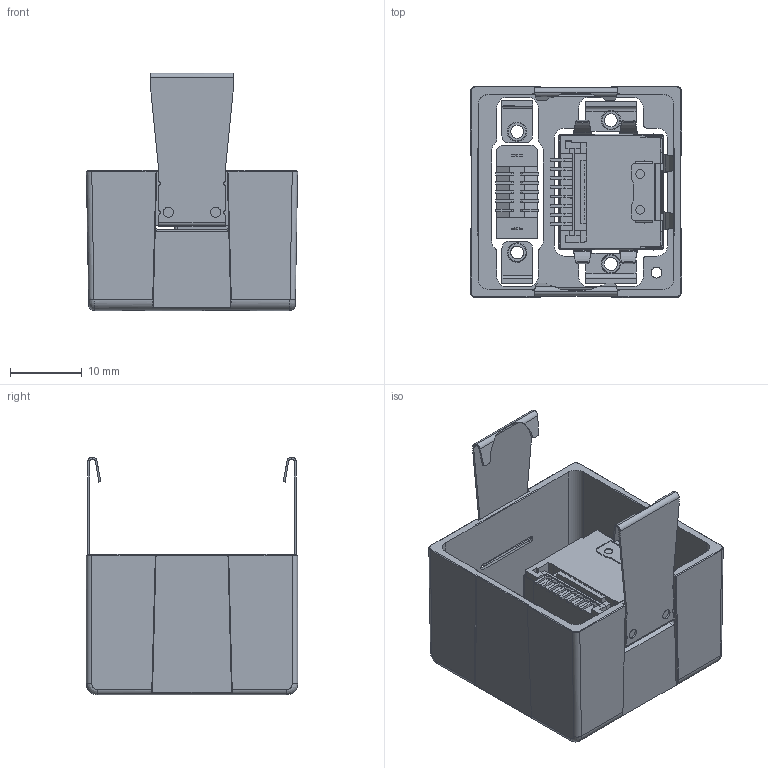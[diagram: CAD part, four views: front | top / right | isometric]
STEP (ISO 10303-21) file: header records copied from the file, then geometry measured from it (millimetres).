
FILE_DESCRIPTION (( 'STEP AP214' ), '1' );
FILE_NAME ('Alvium-G1-Cover.STEP', '2022-04-20T10:19:14', ( '' ), ( '' ), 'SwSTEP 2.0', 'SolidWorks 2021', '' );
FILE_SCHEMA (( 'AUTOMOTIVE_DESIGN' ));
Length unit declared in the file: millimetre
Products named in the file (1): Alvium-G1-Cover
Bounding box: 29.4 x 29.4 x 33.07 mm (x, y, z)
Volume: 4390.5 mm3; surface area: 10860.5 mm2
Topology: 21 solids, 25 shells, 1996 faces, 5045 edges, 3104 vertices
Faces by surface type: plane 1352, cylinder 439, bspline 148, sphere 26, cone 26, torus 5
Entity records: 85213 total; most frequent: CARTESIAN_POINT 16367, ORIENTED_EDGE 10030, DIRECTION 9022, EDGE_CURVE 5015, LINE 3686, VECTOR 3686, VERTEX_POINT 3100, AXIS2_PLACEMENT_3D 2668
